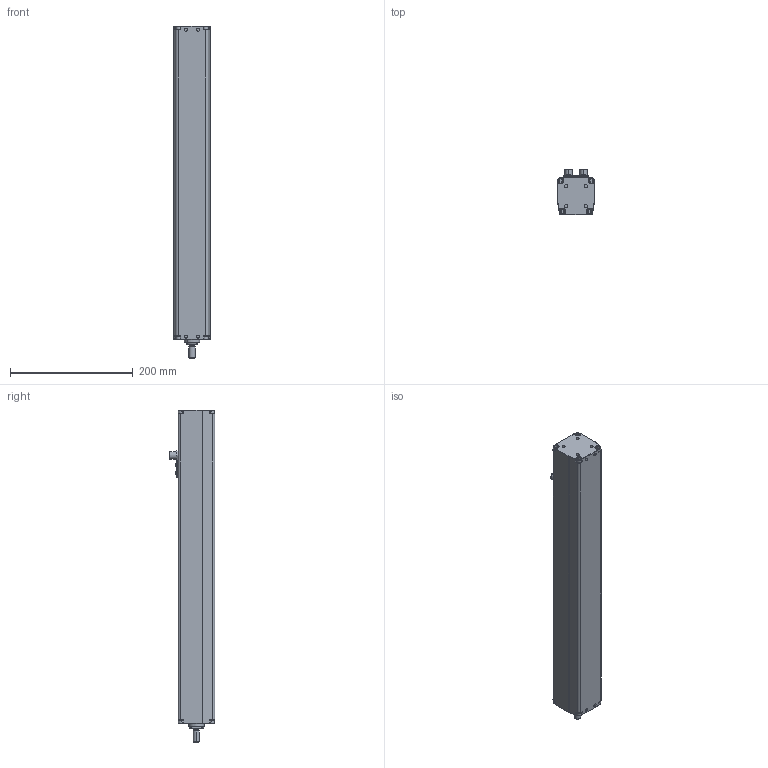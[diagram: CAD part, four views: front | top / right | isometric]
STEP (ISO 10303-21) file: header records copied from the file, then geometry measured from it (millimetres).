
FILE_DESCRIPTION (( 'STEP AP214' ), '1' );
FILE_NAME ('CTC-060-K__-0400-A.STEP', '2021-10-18T11:53:02', ( '' ), ( '' ), 'SwSTEP 2.0', 'SolidWorks 2020', '' );
FILE_SCHEMA (( 'AUTOMOTIVE_DESIGN' ));
Length unit declared in the file: millimetre
Products named in the file (4): Schubrohr_Hub 400; CTC-060-K__-0400-A; Aufsatz_M10x1.25; Gehaeuse_Hub_400
Assembly tree (3 placements, depth 2):
  CTC-060-K__-0400-A
    Gehaeuse_Hub_400
    Schubrohr_Hub 400
    Aufsatz_M10x1.25
Bounding box: 60 x 74.3 x 542 mm (x, y, z)
Volume: 1616693.2 mm3; surface area: 221508.8 mm2
Topology: 3 solids, 3 shells, 875 faces, 2125 edges, 1367 vertices
Faces by surface type: plane 417, cylinder 205, bspline 129, torus 72, cone 44, sphere 8
Entity records: 37017 total; most frequent: CARTESIAN_POINT 11986, ORIENTED_EDGE 4250, DIRECTION 3981, EDGE_CURVE 2125, AXIS2_PLACEMENT_3D 1374, VERTEX_POINT 1367, LINE 1233, VECTOR 1233
